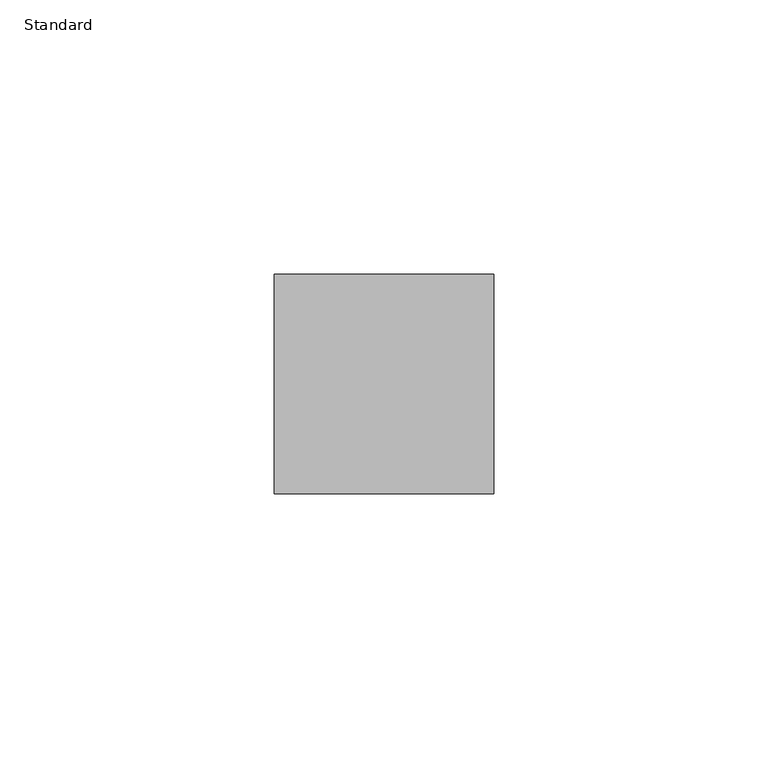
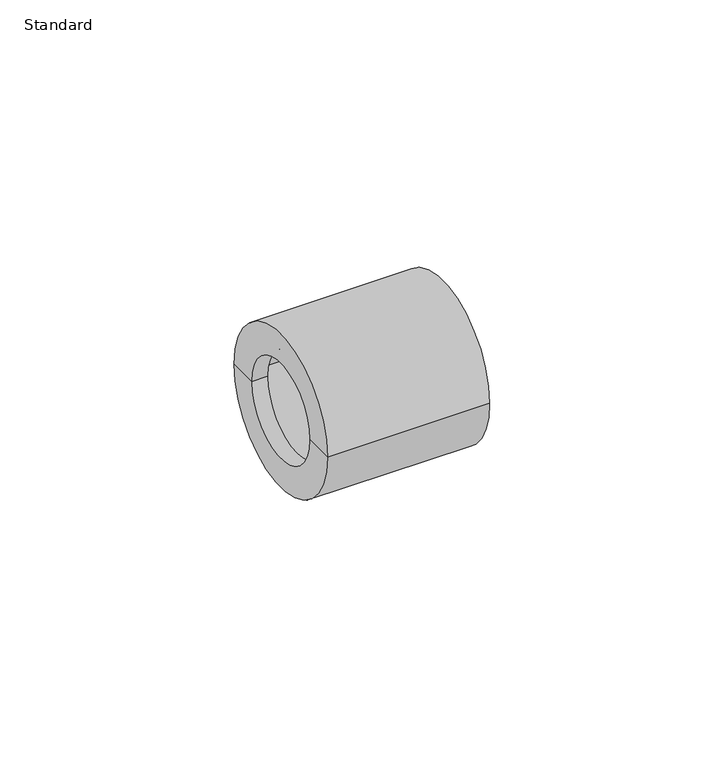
"""IFC4 building model written with IfcOpenShell, lengths in millimetres: pipe fitting geometry, Durapipe_PipeFitting_PVC_ReducingBush : Standard."""

from ifc_helpers import new_model, si_unit, frame, origin, place, context, project, spatial, polyline, circle_curve, source, transform, mapped, element, save
from ifc_brep_helpers import plane_surface, cylinder_surface, revolved_surface, advanced_brep


def standard_85101fb3(model_context):
    return source(origin(), model_context, "Body", "AdvancedBrep", [
        advanced_brep(
        [(-4.0, -12.5, 0.0), (-4.0, 12.5, 0.0), (-4.0, 20.0, 0.0), (-4.0, -20.0, 0.0), (0.0, -12.5, 0.0), (0.0, 12.5, 0.0), (0.0, -16.0, 0.0), (0.0, 16.0, 0.0), (36.0, -16.0, 0.0), (36.0, 16.0, 0.0), (36.0, -20.0, 0.0), (36.0, 20.0, 0.0)],
        [
            (0, 1, circle_curve(frame((-4.0, 0.0, 0.0), z_axis=(1.0, 0.0, 0.0), x_axis=(0.0, 1.0, 0.0)), 12.5)),
            (1, 2),
            (2, 3, circle_curve(frame((-4.0, 0.0, 0.0), z_axis=(-1.0, 0.0, 0.0), x_axis=(0.0, 1.0, 0.0)), 20.0)),
            (3, 0),
            (1, 0, circle_curve(frame((-4.0, 0.0, 0.0), z_axis=(1.0, 0.0, 0.0), x_axis=(0.0, 1.0, 0.0)), 12.5)),
            (3, 2, circle_curve(frame((-4.0, 0.0, 0.0), z_axis=(-1.0, 0.0, 0.0), x_axis=(0.0, 1.0, 0.0)), 20.0)),
            (4, 5, circle_curve(frame((0.0, 0.0, 0.0), z_axis=(1.0, 0.0, 0.0), x_axis=(0.0, 1.0, 0.0)), 12.5)),
            (5, 1),
            (0, 4),
            (5, 4, circle_curve(frame((0.0, 0.0, 0.0), z_axis=(1.0, 0.0, 0.0), x_axis=(0.0, 1.0, 0.0)), 12.5)),
            (6, 7, circle_curve(frame((0.0, 0.0, 0.0), z_axis=(1.0, 0.0, 0.0), x_axis=(0.0, 1.0, 0.0)), 16.0)),
            (7, 5),
            (4, 6),
            (7, 6, circle_curve(frame((0.0, 0.0, 0.0), z_axis=(1.0, 0.0, 0.0), x_axis=(0.0, 1.0, 0.0)), 16.0)),
            (8, 9, circle_curve(frame((36.0, 0.0, 0.0), z_axis=(1.0, 0.0, 0.0), x_axis=(0.0, 1.0, 0.0)), 16.0)),
            (9, 7),
            (6, 8),
            (9, 8, circle_curve(frame((36.0, 0.0, 0.0), z_axis=(1.0, 0.0, 0.0), x_axis=(0.0, 1.0, 0.0)), 16.0)),
            (10, 11, circle_curve(frame((36.0, 0.0, 0.0), z_axis=(1.0, 0.0, 0.0), x_axis=(0.0, 1.0, 0.0)), 20.0)),
            (11, 9),
            (8, 10),
            (11, 10, circle_curve(frame((36.0, 0.0, 0.0), z_axis=(1.0, 0.0, 0.0), x_axis=(0.0, 1.0, 0.0)), 20.0)),
            (2, 11),
            (10, 3),
        ],
        [
            plane_surface(frame((-4.0, 0.0, 0.0), z_axis=(-1.0, 0.0, 0.0), x_axis=(0.0, 1.0, 0.0))),
            revolved_surface(polyline([(-4.0, 12.5, 0.0), (0.0, 12.5, 0.0)]), (2022.0, 0.0, 0.0), (-1.0, 0.0, 0.0)),
            plane_surface(frame((0.0, 0.0, 0.0), z_axis=(1.0, 0.0, 0.0), x_axis=(0.0, 1.0, 0.0))),
            revolved_surface(polyline([(0.0, 16.0, 0.0), (36.0, 16.0, 0.0)]), (2022.0, 0.0, 0.0), (-1.0, 0.0, 0.0)),
            plane_surface(frame((36.0, 0.0, 0.0), z_axis=(1.0, 0.0, 0.0), x_axis=(0.0, 1.0, 0.0))),
            cylinder_surface(frame((2022.0, 0.0, 0.0), z_axis=(-1.0, 0.0, 0.0), x_axis=(0.0, 1.0, 0.0)), 20.0),
        ],
        [
            (0, [[1, 2, 3, 4]]),
            (0, [[5, -4, 6, -2]]),
            (1, [[7, 8, -1, 9]]),
            (1, [[10, -9, -5, -8]]),
            (2, [[11, 12, -7, 13]]),
            (2, [[14, -13, -10, -12]]),
            (3, [[15, 16, -11, 17]]),
            (3, [[18, -17, -14, -16]]),
            (4, [[19, 20, -15, 21]]),
            (4, [[22, -21, -18, -20]]),
            (5, [[-3, 23, -19, 24]]),
            (5, [[-6, -24, -22, -23]]),
        ],
    ),
    ])


if __name__ == "__main__":
    model = new_model("IFC4")
    model_context = context("Model", 3, world=origin())
    ifc_project = project(units=[si_unit("LENGTHUNIT", "METRE", prefix="MILLI")], contexts=[model_context])
    site = spatial("IfcSite", under=ifc_project)
    building = spatial("IfcBuilding", under=site)
    placement = place(None, origin())
    standard_shape = standard_85101fb3(model_context)
    element("IfcPipeFitting", 1, ObjectType="Durapipe_PipeFitting_PVC_ReducingBush : Standard", at=placement, inside=building, context=model_context, shape_type="MappedRepresentation", body=[
        mapped(standard_shape, transform((0.0, 0.0, 0.0), x_axis=(1.0, 0.0, 0.0), y_axis=(0.0, 1.0, 0.0), z_axis=(0.0, 0.0, 1.0))),
    ])
    save(model, "model.ifc")
